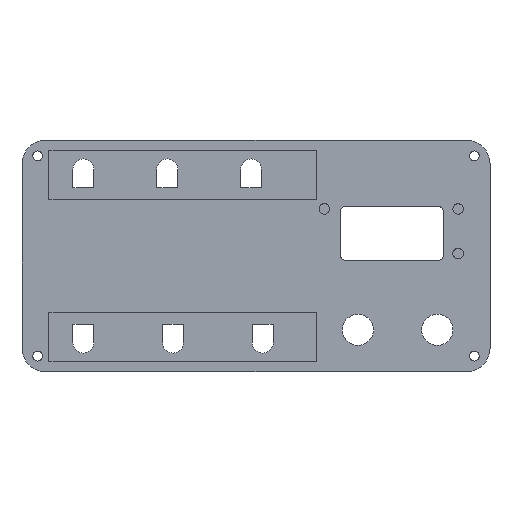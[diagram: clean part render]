
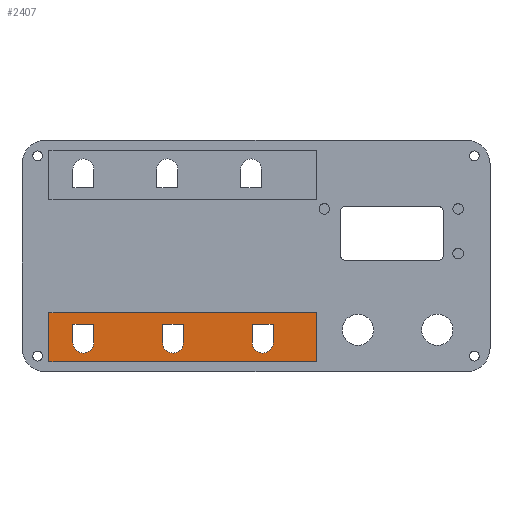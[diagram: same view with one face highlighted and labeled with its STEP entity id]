
A CAD part, top view. The second image highlights one B-rep face of the part: STEP entity #2407.
In plain terms, the highlighted planar face has unit normal (0, 0, 1).
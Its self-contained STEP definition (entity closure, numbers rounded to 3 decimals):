
#383=CARTESIAN_POINT('',(2753.35,-431.6,22.4));
#384=VERTEX_POINT('',#383);
#391=CARTESIAN_POINT('',(2753.35,-435.65,22.4));
#392=VERTEX_POINT('',#391);
#393=CARTESIAN_POINT('',(2753.35,-431.6,22.4));
#394=DIRECTION('',(-0.,-1.,0.));
#395=VECTOR('',#394,4.05);
#396=LINE('',#393,#395);
#397=EDGE_CURVE('',#384,#392,#396,.T.);
#421=CARTESIAN_POINT('',(2758.05,-435.65,22.4));
#422=VERTEX_POINT('',#421);
#423=CARTESIAN_POINT('',(2755.7,-435.65,22.4));
#424=DIRECTION('',(0.,-0.,-1.));
#425=DIRECTION('',(0.,-1.,0.));
#426=AXIS2_PLACEMENT_3D('',#423,#424,#425);
#427=CIRCLE('',#426,2.35);
#428=EDGE_CURVE('',#422,#392,#427,.T.);
#455=CARTESIAN_POINT('',(2758.05,-431.6,22.4));
#456=VERTEX_POINT('',#455);
#457=CARTESIAN_POINT('',(2758.05,-435.65,22.4));
#458=DIRECTION('',(0.,1.,-0.));
#459=VECTOR('',#458,4.05);
#460=LINE('',#457,#459);
#461=EDGE_CURVE('',#422,#456,#460,.T.);
#486=CARTESIAN_POINT('',(2758.05,-431.6,22.4));
#487=DIRECTION('',(-1.,0.,-0.));
#488=VECTOR('',#487,4.7);
#489=LINE('',#486,#488);
#490=EDGE_CURVE('',#456,#384,#489,.T.);
#507=CARTESIAN_POINT('',(2778.15,-431.6,22.4));
#508=VERTEX_POINT('',#507);
#509=CARTESIAN_POINT('',(2778.15,-435.65,22.4));
#510=VERTEX_POINT('',#509);
#511=CARTESIAN_POINT('',(2778.15,-431.6,22.4));
#512=DIRECTION('',(-0.,-1.,0.));
#513=VECTOR('',#512,4.05);
#514=LINE('',#511,#513);
#515=EDGE_CURVE('',#508,#510,#514,.T.);
#547=CARTESIAN_POINT('',(2773.45,-435.65,22.4));
#548=VERTEX_POINT('',#547);
#549=CARTESIAN_POINT('',(2775.8,-435.65,22.4));
#550=DIRECTION('',(0.,-0.,-1.));
#551=DIRECTION('',(0.,-1.,0.));
#552=AXIS2_PLACEMENT_3D('',#549,#550,#551);
#553=CIRCLE('',#552,2.35);
#554=EDGE_CURVE('',#510,#548,#553,.T.);
#580=CARTESIAN_POINT('',(2773.45,-431.6,22.4));
#581=VERTEX_POINT('',#580);
#590=CARTESIAN_POINT('',(2773.45,-431.6,22.4));
#591=DIRECTION('',(-0.,-1.,0.));
#592=VECTOR('',#591,4.05);
#593=LINE('',#590,#592);
#594=EDGE_CURVE('',#581,#548,#593,.T.);
#612=CARTESIAN_POINT('',(2778.15,-431.6,22.4));
#613=DIRECTION('',(-1.,0.,-0.));
#614=VECTOR('',#613,4.7);
#615=LINE('',#612,#614);
#616=EDGE_CURVE('',#508,#581,#615,.T.);
#633=CARTESIAN_POINT('',(2798.25,-431.6,22.4));
#634=VERTEX_POINT('',#633);
#635=CARTESIAN_POINT('',(2798.25,-435.65,22.4));
#636=VERTEX_POINT('',#635);
#637=CARTESIAN_POINT('',(2798.25,-431.6,22.4));
#638=DIRECTION('',(-0.,-1.,0.));
#639=VECTOR('',#638,4.05);
#640=LINE('',#637,#639);
#641=EDGE_CURVE('',#634,#636,#640,.T.);
#673=CARTESIAN_POINT('',(2793.55,-435.65,22.4));
#674=VERTEX_POINT('',#673);
#675=CARTESIAN_POINT('',(2795.9,-435.65,22.4));
#676=DIRECTION('',(0.,-0.,-1.));
#677=DIRECTION('',(0.,-1.,0.));
#678=AXIS2_PLACEMENT_3D('',#675,#676,#677);
#679=CIRCLE('',#678,2.35);
#680=EDGE_CURVE('',#636,#674,#679,.T.);
#706=CARTESIAN_POINT('',(2793.55,-431.6,22.4));
#707=VERTEX_POINT('',#706);
#716=CARTESIAN_POINT('',(2793.55,-431.6,22.4));
#717=DIRECTION('',(-0.,-1.,0.));
#718=VECTOR('',#717,4.05);
#719=LINE('',#716,#718);
#720=EDGE_CURVE('',#707,#674,#719,.T.);
#738=CARTESIAN_POINT('',(2798.25,-431.6,22.4));
#739=DIRECTION('',(-1.,0.,-0.));
#740=VECTOR('',#739,4.7);
#741=LINE('',#738,#740);
#742=EDGE_CURVE('',#634,#707,#741,.T.);
#2288=CARTESIAN_POINT('',(2748.,-440.,22.4));
#2289=VERTEX_POINT('',#2288);
#2296=CARTESIAN_POINT('',(2748.,-429.,22.4));
#2297=VERTEX_POINT('',#2296);
#2298=CARTESIAN_POINT('',(2748.,-440.,22.4));
#2299=DIRECTION('',(0.,1.,-0.));
#2300=VECTOR('',#2299,11.);
#2301=LINE('',#2298,#2300);
#2302=EDGE_CURVE('',#2289,#2297,#2301,.T.);
#2319=CARTESIAN_POINT('',(2808.,-440.,22.4));
#2320=VERTEX_POINT('',#2319);
#2327=CARTESIAN_POINT('',(2808.,-440.,22.4));
#2328=DIRECTION('',(-1.,-0.,-0.));
#2329=VECTOR('',#2328,60.);
#2330=LINE('',#2327,#2329);
#2331=EDGE_CURVE('',#2320,#2289,#2330,.T.);
#2343=CARTESIAN_POINT('',(2808.,-429.,22.4));
#2344=VERTEX_POINT('',#2343);
#2351=CARTESIAN_POINT('',(2808.,-429.,22.4));
#2352=DIRECTION('',(-0.,-1.,0.));
#2353=VECTOR('',#2352,11.);
#2354=LINE('',#2351,#2353);
#2355=EDGE_CURVE('',#2344,#2320,#2354,.T.);
#2368=CARTESIAN_POINT('',(2748.,-429.,22.4));
#2369=DIRECTION('',(1.,0.,0.));
#2370=VECTOR('',#2369,60.);
#2371=LINE('',#2368,#2370);
#2372=EDGE_CURVE('',#2297,#2344,#2371,.T.);
#2378=CARTESIAN_POINT('',(0.,-126.,22.4));
#2379=DIRECTION('',(-0.,0.,1.));
#2380=DIRECTION('',(-1.,0.,-0.));
#2381=AXIS2_PLACEMENT_3D('',#2378,#2379,#2380);
#2382=PLANE('',#2381);
#2383=ORIENTED_EDGE('',*,*,#2302,.F.);
#2384=ORIENTED_EDGE('',*,*,#2331,.F.);
#2385=ORIENTED_EDGE('',*,*,#2355,.F.);
#2386=ORIENTED_EDGE('',*,*,#2372,.F.);
#2387=EDGE_LOOP('',(#2383,#2384,#2385,#2386));
#2388=FACE_BOUND('',#2387,.T.);
#2389=ORIENTED_EDGE('',*,*,#641,.T.);
#2390=ORIENTED_EDGE('',*,*,#680,.T.);
#2391=ORIENTED_EDGE('',*,*,#720,.F.);
#2392=ORIENTED_EDGE('',*,*,#742,.F.);
#2393=EDGE_LOOP('',(#2389,#2390,#2391,#2392));
#2394=FACE_BOUND('',#2393,.T.);
#2395=ORIENTED_EDGE('',*,*,#515,.T.);
#2396=ORIENTED_EDGE('',*,*,#554,.T.);
#2397=ORIENTED_EDGE('',*,*,#594,.F.);
#2398=ORIENTED_EDGE('',*,*,#616,.F.);
#2399=EDGE_LOOP('',(#2395,#2396,#2397,#2398));
#2400=FACE_BOUND('',#2399,.T.);
#2401=ORIENTED_EDGE('',*,*,#461,.F.);
#2402=ORIENTED_EDGE('',*,*,#428,.T.);
#2403=ORIENTED_EDGE('',*,*,#397,.F.);
#2404=ORIENTED_EDGE('',*,*,#490,.F.);
#2405=EDGE_LOOP('',(#2401,#2402,#2403,#2404));
#2406=FACE_BOUND('',#2405,.T.);
#2407=ADVANCED_FACE('',(#2388,#2394,#2400,#2406),#2382,.T.);
